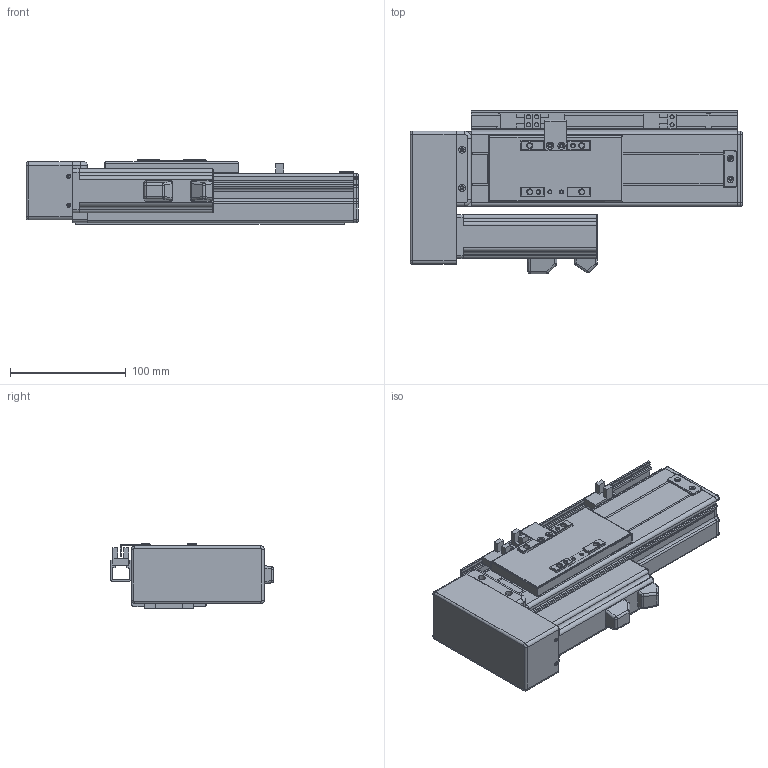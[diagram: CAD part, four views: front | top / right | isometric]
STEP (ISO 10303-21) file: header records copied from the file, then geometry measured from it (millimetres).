
FILE_DESCRIPTION (( 'STEP AP203' ), '1' );
FILE_NAME ('VT6-S80-BL.STEP', '2016-06-17T09:45:44', ( '' ), ( '' ), 'SwSTEP 2.0', 'SolidWorks 2013', '' );
FILE_SCHEMA (( 'CONFIG_CONTROL_DESIGN' ));
Length unit declared in the file: millimetre
Products named in the file (17): T6-BRL萇儂假蚾啣; T6-綴傷裔; 侂狟100W MSMD012G1V; EE-XS674; VT6-S80-BL; ET6-BLRM絳寢_俴最80; ET6-BC耜啣_80; ET6-BLRM滅鳥湍_80; ET6-BC癹弇羲壽羞_80; ET6-BLRM佪裝_80; T6-賑雄殤; T6-BMLRヶ傷裔; T6-裔啣; T6-BMRLヶ傷裔揤啣; T6-揤輸; T6-BMRL肮祭湍謫欶; T6-覜茼え
Assembly tree (19 placements, depth 2):
  VT6-S80-BL
    ET6-BC耜啣_80  x2
    ET6-BC癹弇羲壽羞_80
    T6-賑雄殤
    T6-裔啣
    T6-揤輸
    T6-覜茼え
    T6-綴傷裔
    EE-XS674  x3
    ET6-BLRM絳寢_俴最80
    ET6-BLRM滅鳥湍_80
    ET6-BLRM佪裝_80
    T6-BMLRヶ傷裔
    T6-BMRLヶ傷裔揤啣
    T6-BMRL肮祭湍謫欶
    T6-BRL萇儂假蚾啣
    侂狟100W MSMD012G1V
Bounding box: 287 x 141 x 56 mm (x, y, z)
Volume: 546162 mm3; surface area: 284474.6 mm2
Topology: 19 solids, 19 shells, 865 faces, 2280 edges, 1440 vertices
Faces by surface type: cylinder 391, plane 374, cone 46, torus 36, sphere 18
Entity records: 26509 total; most frequent: CARTESIAN_POINT 4465, DIRECTION 4406, ORIENTED_EDGE 4078, EDGE_CURVE 2039, AXIS2_PLACEMENT_3D 1601, VERTEX_POINT 1300, LINE 1204, VECTOR 1204
